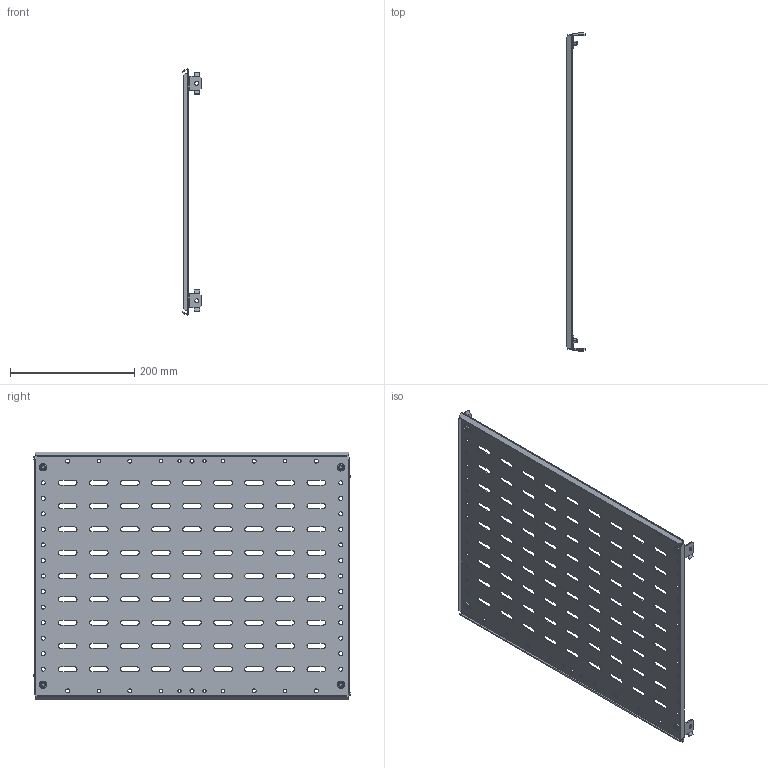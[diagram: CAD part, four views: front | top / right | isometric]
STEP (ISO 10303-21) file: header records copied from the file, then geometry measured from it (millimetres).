
FILE_DESCRIPTION (( 'STEP AP214' ), '1' );
FILE_NAME ('FO-00-SWF-040-060 Ïåðåãîðîäêà ñåêöèîíèðîâàíèÿ çàäíÿÿ 400õ600 ìì.STEP', '2025-09-05T10:34:40', ( '' ), ( '' ), 'SwSTEP 2.0', 'SolidWorks 2023', '' );
FILE_SCHEMA (( 'AUTOMOTIVE_DESIGN' ));
Length unit declared in the file: millimetre
Products named in the file (1): FO-00-SWF-040-060 Перегородка секционирования задняя 400х600 мм
Bounding box: 30.52 x 511.5 x 397.66 mm (x, y, z)
Volume: 301694 mm3; surface area: 408529.5 mm2
Topology: 1 solids, 5 shells, 785 faces, 2249 edges, 1486 vertices
Faces by surface type: cylinder 439, plane 314, cone 16, torus 16
Entity records: 26532 total; most frequent: DIRECTION 4747, CARTESIAN_POINT 4521, ORIENTED_EDGE 4498, EDGE_CURVE 2249, AXIS2_PLACEMENT_3D 1712, VERTEX_POINT 1486, LINE 1323, VECTOR 1323
